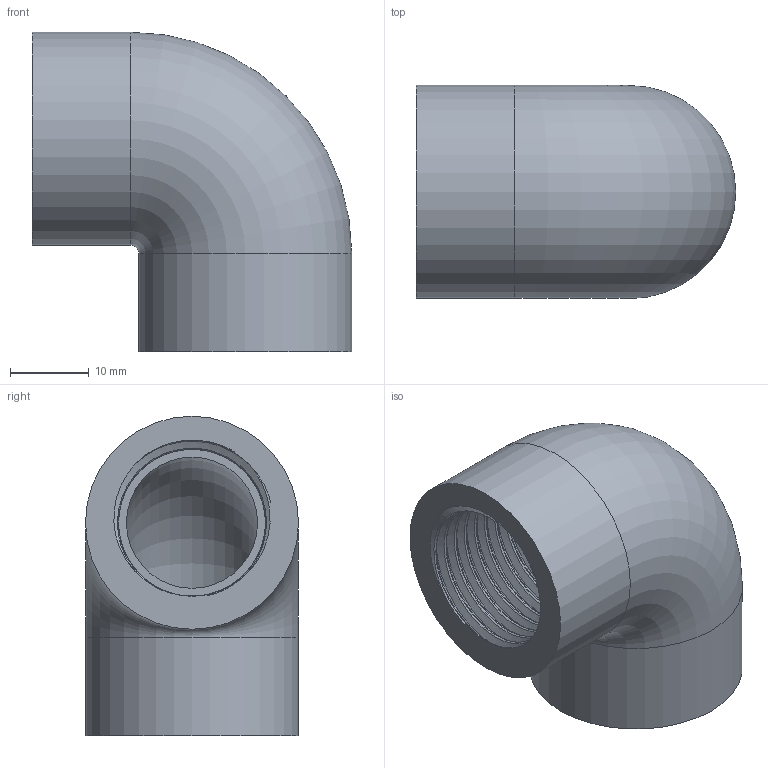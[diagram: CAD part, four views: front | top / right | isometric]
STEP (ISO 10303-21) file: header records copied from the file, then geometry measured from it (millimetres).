
FILE_DESCRIPTION(/* description */ ('PVC gomito a 90° filettato BSP femmina'),/* implementation_level */ '2;1');
FILE_NAME(/* name */ 'C:\Users\POLYPIPE\Desktop\DATASET INVENTOR\LIBRERIA EFFAST\RACCORDI 3DxWEB\RER\3D_RERGOE\3D_RERGOE020B.stp',/* time_stamp */ '2018-01-19T16:17:41+01:00',/* author */ ('POLYPIPE'),/* organization */ ('Polypipe Italia s.r.l.'),/* preprocessor_version */ 'ST-DEVELOPER v16.1',/* originating_system */ 'Autodesk Inventor 2016',/* authorisation */ '');
FILE_SCHEMA (('CONFIG_CONTROL_DESIGN'));
Length unit declared in the file: millimetre
Products named in the file (1): 3D_RERGOE
Bounding box: 40.5 x 27 x 40.5 mm (x, y, z)
Volume: 13947.6 mm3; surface area: 9170.5 mm2
Topology: 1 solids, 1 shells, 22 faces, 46 edges, 28 vertices
Faces by surface type: bspline 10, plane 6, cylinder 4, torus 2
Full cylindrical faces by diameter (mm): 18.631 x2, 27 x2
Entity records: 7282 total; most frequent: CARTESIAN_POINT 6861, ORIENTED_EDGE 84, DIRECTION 60, EDGE_CURVE 42, EDGE_LOOP 30, VERTEX_POINT 28, AXIS2_PLACEMENT_3D 27, FACE_OUTER_BOUND 22
